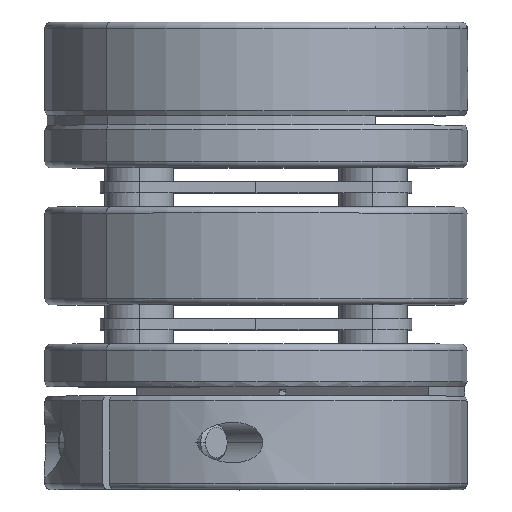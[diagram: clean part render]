
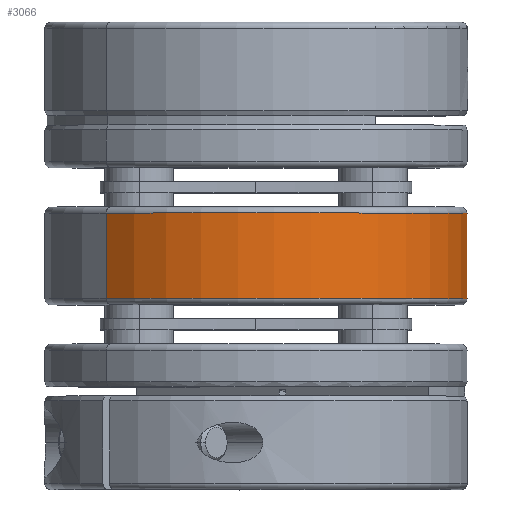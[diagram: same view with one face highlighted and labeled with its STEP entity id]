
A CAD part, top view. The second image highlights one B-rep face of the part: STEP entity #3066.
In plain terms, the highlighted cylindrical face has radius 34 mm (diameter 68 mm), a partial arc.
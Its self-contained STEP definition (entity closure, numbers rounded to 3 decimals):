
#167 = LINE ( 'NONE', #2984, #784 ) ;
#304 = CARTESIAN_POINT ( 'NONE',  ( 0., 15.7, 0. ) ) ;
#579 = ORIENTED_EDGE ( 'NONE', *, *, #2411, .T. ) ;
#625 = CIRCLE ( 'NONE', #2865, 34. ) ;
#629 = CARTESIAN_POINT ( 'NONE',  ( 0., 1., 0. ) ) ;
#784 = VECTOR ( 'NONE', #2312, 1000. ) ;
#1079 = EDGE_CURVE ( 'NONE', #4769, #6663, #167, .T. ) ;
#1221 = CARTESIAN_POINT ( 'NONE',  ( 0., 14.7, 0. ) ) ;
#1336 = VERTEX_POINT ( 'NONE', #5935 ) ;
#1436 = EDGE_CURVE ( 'NONE', #1336, #1462, #3353, .T. ) ;
#1462 = VERTEX_POINT ( 'NONE', #2293 ) ;
#1469 = EDGE_LOOP ( 'NONE', ( #579, #3143, #2922, #1546 ) ) ;
#1546 = ORIENTED_EDGE ( 'NONE', *, *, #1079, .F. ) ;
#1805 = CARTESIAN_POINT ( 'NONE',  ( 0., 15.7, 34. ) ) ;
#2186 = DIRECTION ( 'NONE',  ( 0., 0., 1. ) ) ;
#2262 = DIRECTION ( 'NONE',  ( 0., -1., 0. ) ) ;
#2293 = CARTESIAN_POINT ( 'NONE',  ( 0., 1., 34. ) ) ;
#2312 = DIRECTION ( 'NONE',  ( 0., -1., 0. ) ) ;
#2340 = FACE_OUTER_BOUND ( 'NONE', #1469, .T. ) ;
#2411 = EDGE_CURVE ( 'NONE', #4769, #1336, #6524, .T. ) ;
#2803 = DIRECTION ( 'NONE',  ( 0., -1., 0. ) ) ;
#2865 = AXIS2_PLACEMENT_3D ( 'NONE', #629, #3209, #2186 ) ;
#2922 = ORIENTED_EDGE ( 'NONE', *, *, #6813, .T. ) ;
#2984 = CARTESIAN_POINT ( 'NONE',  ( 0., 15.7, -34. ) ) ;
#3066 = ADVANCED_FACE ( 'NONE', ( #2340 ), #6115, .T. ) ;
#3141 = AXIS2_PLACEMENT_3D ( 'NONE', #304, #5149, #5073 ) ;
#3143 = ORIENTED_EDGE ( 'NONE', *, *, #1436, .T. ) ;
#3209 = DIRECTION ( 'NONE',  ( 0., 1., 0. ) ) ;
#3353 = LINE ( 'NONE', #1805, #4476 ) ;
#4244 = CARTESIAN_POINT ( 'NONE',  ( 0., 1., -34. ) ) ;
#4476 = VECTOR ( 'NONE', #2262, 1000. ) ;
#4769 = VERTEX_POINT ( 'NONE', #6769 ) ;
#5073 = DIRECTION ( 'NONE',  ( 0., 0., -1. ) ) ;
#5149 = DIRECTION ( 'NONE',  ( 0., -1., 0. ) ) ;
#5248 = AXIS2_PLACEMENT_3D ( 'NONE', #1221, #2803, #5445 ) ;
#5445 = DIRECTION ( 'NONE',  ( 0., 0., 1. ) ) ;
#5935 = CARTESIAN_POINT ( 'NONE',  ( 0., 14.7, 34. ) ) ;
#6115 = CYLINDRICAL_SURFACE ( 'NONE', #3141, 34. ) ;
#6524 = CIRCLE ( 'NONE', #5248, 34. ) ;
#6663 = VERTEX_POINT ( 'NONE', #4244 ) ;
#6769 = CARTESIAN_POINT ( 'NONE',  ( 0., 14.7, -34. ) ) ;
#6813 = EDGE_CURVE ( 'NONE', #1462, #6663, #625, .T. ) ;
